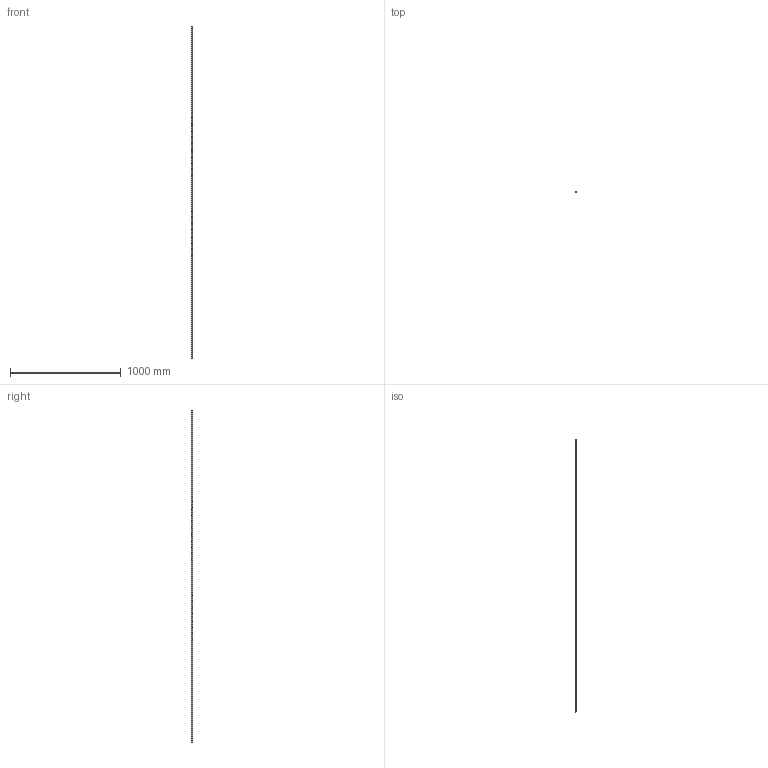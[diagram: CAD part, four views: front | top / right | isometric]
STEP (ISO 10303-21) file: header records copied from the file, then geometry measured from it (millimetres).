
FILE_DESCRIPTION (( 'STEP AP214' ), '1' );
FILE_NAME ('2000817 Porto Mini 1 Leuchtenprofil Silberfarben .STEP', '2022-11-21T14:30:02', ( '' ), ( '' ), 'SwSTEP 2.0', 'SolidWorks 2021', '' );
FILE_SCHEMA (( 'AUTOMOTIVE_DESIGN' ));
Length unit declared in the file: millimetre
Products named in the file (1): 2000817 Porto Mini 1 Leuchtenprofil Silberfarben 
Bounding box: 12 x 11 x 3000 mm (x, y, z)
Volume: 107027.2 mm3; surface area: 206991.3 mm2
Topology: 1 solids, 1 shells, 60 faces, 174 edges, 116 vertices
Faces by surface type: plane 35, cylinder 25
Entity records: 2022 total; most frequent: CARTESIAN_POINT 351, ORIENTED_EDGE 348, DIRECTION 346, EDGE_CURVE 174, LINE 124, VECTOR 124, VERTEX_POINT 116, AXIS2_PLACEMENT_3D 111
